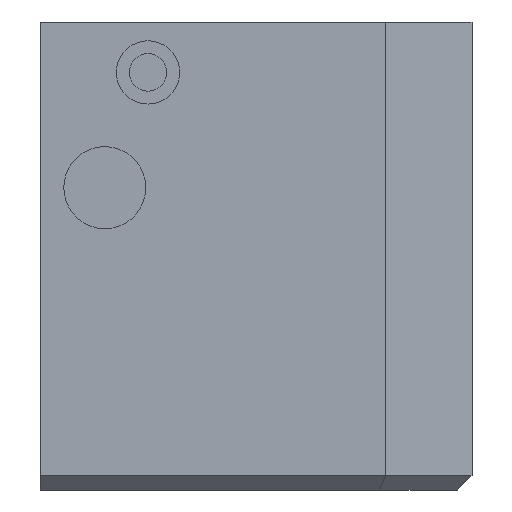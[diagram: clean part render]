
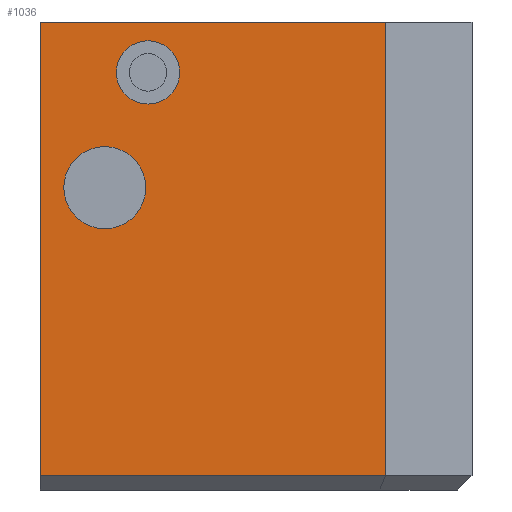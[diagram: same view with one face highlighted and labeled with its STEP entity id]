
A CAD part, left-side view. The second image highlights one B-rep face of the part: STEP entity #1036.
In plain terms, the highlighted planar face has unit normal (-1, 0, 0).
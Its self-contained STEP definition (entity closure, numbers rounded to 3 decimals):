
#54=CIRCLE('',#1066,5.7);
#57=CIRCLE('',#1071,4.4);
#128=VERTEX_POINT('',#1482);
#130=VERTEX_POINT('',#1488);
#133=VERTEX_POINT('',#1496);
#137=VERTEX_POINT('',#1512);
#140=VERTEX_POINT('',#1521);
#177=VERTEX_POINT('',#1645);
#230=VECTOR('',#1212,1.);
#233=VECTOR('',#1216,1.);
#271=VECTOR('',#1359,1.);
#273=VECTOR('',#1362,1.);
#326=LINE('',#1491,#230);
#329=LINE('',#1497,#233);
#367=LINE('',#1644,#271);
#369=LINE('',#1648,#273);
#433=EDGE_CURVE('',#128,#130,#326,.T.);
#436=EDGE_CURVE('',#133,#128,#329,.T.);
#443=EDGE_CURVE('',#137,#137,#54,.T.);
#447=EDGE_CURVE('',#140,#140,#57,.T.);
#501=EDGE_CURVE('',#130,#177,#367,.T.);
#504=EDGE_CURVE('',#133,#177,#369,.T.);
#755=ORIENTED_EDGE('',*,*,#433,.F.);
#756=ORIENTED_EDGE('',*,*,#436,.F.);
#757=ORIENTED_EDGE('',*,*,#504,.T.);
#758=ORIENTED_EDGE('',*,*,#501,.F.);
#759=ORIENTED_EDGE('',*,*,#443,.T.);
#760=ORIENTED_EDGE('',*,*,#447,.T.);
#869=EDGE_LOOP('',(#755,#756,#757,#758));
#870=EDGE_LOOP('',(#759));
#871=EDGE_LOOP('',(#760));
#968=FACE_BOUND('',#869,.T.);
#969=FACE_BOUND('',#870,.T.);
#970=FACE_BOUND('',#871,.T.);
#1036=ADVANCED_FACE('',(#968,#969,#970),#1694,.T.);
#1066=AXIS2_PLACEMENT_3D('',#1511,#1228,#1229);
#1071=AXIS2_PLACEMENT_3D('',#1520,#1238,#1239);
#1128=AXIS2_PLACEMENT_3D('',#1647,#1361,$);
#1212=DIRECTION('',(0.,1.,0.));
#1216=DIRECTION('',(0.,0.,-1.));
#1228=DIRECTION('',(1.,0.,0.));
#1229=DIRECTION('',(0.,0.,5.7));
#1238=DIRECTION('',(1.,0.,0.));
#1239=DIRECTION('',(0.,0.,4.4));
#1359=DIRECTION('',(0.,0.,1.));
#1361=DIRECTION('',(-1.,0.,0.));
#1362=DIRECTION('',(0.,1.,0.));
#1482=CARTESIAN_POINT('',(-21.,-18.,2.));
#1488=CARTESIAN_POINT('',(-21.,30.,2.));
#1491=CARTESIAN_POINT('',(-21.,0.,2.));
#1496=CARTESIAN_POINT('',(-21.,-18.,65.));
#1497=CARTESIAN_POINT('',(-21.,-18.,0.));
#1511=CARTESIAN_POINT('',(-21.,21.,42.));
#1512=CARTESIAN_POINT('',(-21.,21.,47.7));
#1520=CARTESIAN_POINT('',(-21.,15.,58.));
#1521=CARTESIAN_POINT('',(-21.,15.,62.4));
#1644=CARTESIAN_POINT('',(-21.,30.,0.));
#1645=CARTESIAN_POINT('',(-21.,30.,65.));
#1647=CARTESIAN_POINT('',(-21.,0.,0.));
#1648=CARTESIAN_POINT('',(-21.,30.,65.));
#1694=PLANE('',#1128);
